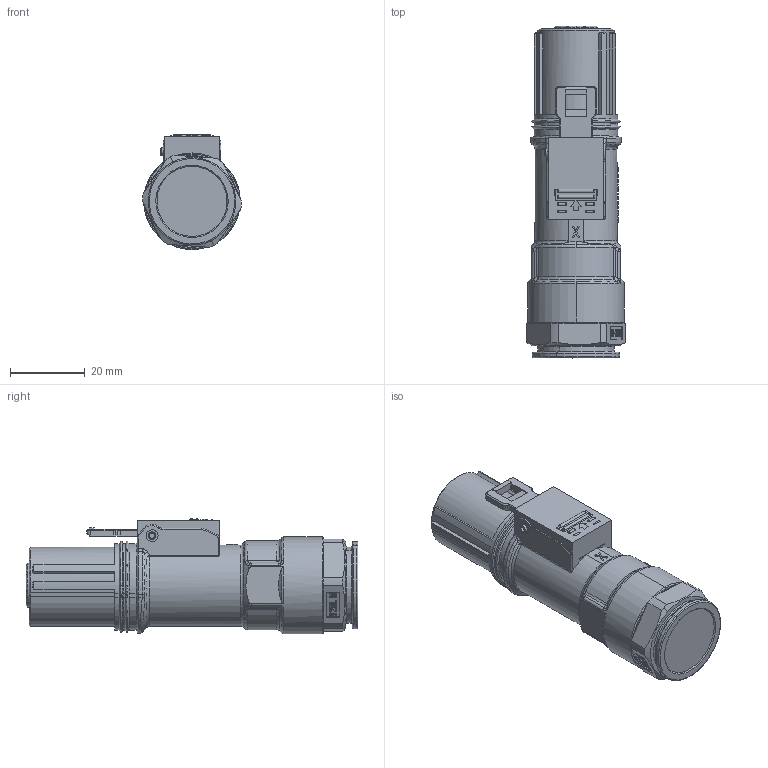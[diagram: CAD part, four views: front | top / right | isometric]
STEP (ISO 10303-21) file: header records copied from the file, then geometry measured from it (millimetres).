
FILE_DESCRIPTION (( 'STEP AP214' ), '1' );
FILE_NAME ('PL48X-201.STEP', '2025-01-14T02:11:50', ( '' ), ( '' ), 'SwSTEP 2.0', 'SolidWorks 2018', '' );
FILE_SCHEMA (( 'AUTOMOTIVE_DESIGN' ));
Length unit declared in the file: millimetre
Products named in the file (1): PL48X-201
Bounding box: 26.5 x 89 x 30.88 mm (x, y, z)
Volume: 37561.1 mm3; surface area: 12124.2 mm2
Topology: 1 solids, 4 shells, 753 faces, 2008 edges, 1294 vertices
Faces by surface type: plane 355, cylinder 163, bspline 80, torus 76, cone 71, sphere 8
Entity records: 35882 total; most frequent: CARTESIAN_POINT 15410, ORIENTED_EDGE 4008, DIRECTION 3486, EDGE_CURVE 2004, VERTEX_POINT 1294, AXIS2_PLACEMENT_3D 1242, LINE 1002, VECTOR 1002
